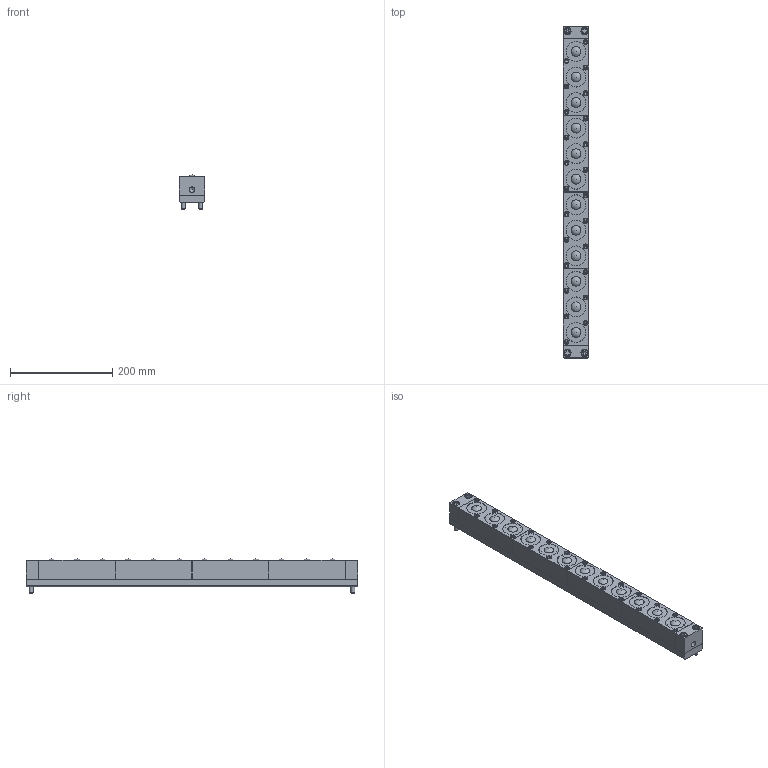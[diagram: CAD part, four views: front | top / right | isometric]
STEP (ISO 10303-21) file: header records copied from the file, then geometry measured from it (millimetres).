
FILE_DESCRIPTION(/* description */ (''),/* implementation_level */ '2;1');
FILE_NAME(/* name */ 'Z:\34-Tei\01-web 3Dデータ\41-ISR-50S型\ISR-50S-650-A.stp',/* time_stamp */ '2015-01-16T09:33:59+09:00',/* author */ ('yamaki'),/* organization */ (''),/* preprocessor_version */ 'ST-DEVELOPER v15.6',/* originating_system */ 'Autodesk Inventor 2015',/* authorisation */ '');
FILE_SCHEMA (('AUTOMOTIVE_DESIGN { 1 0 10303 214 3 1 1 }'));
Length unit declared in the file: millimetre
Products named in the file (5): 4200AT-01-650; 六角穴付きボルト-M8x55; 4200AT-00; 4200AT-03; ISR-50S
Bounding box: 49.5 x 650 x 67 mm (x, y, z)
Volume: 1579652.4 mm3; surface area: 368469.5 mm2
Topology: 19 solids, 19 shells, 614 faces, 1275 edges, 818 vertices
Faces by surface type: plane 397, cylinder 121, cone 54, torus 30, sphere 12
Full cylindrical faces by diameter (mm): 8 x2, 8.5 x24, 9 x2, 9.5 x24, 10.5 x1, 13 x4, 14.5 x4, 31.7 x12, 38.5 x12, 39 x12, 42 x24
Entity records: 4991 total; most frequent: CARTESIAN_POINT 884, DIRECTION 808, ORIENTED_EDGE 682, EDGE_CURVE 341, AXIS2_PLACEMENT_3D 295, EDGE_LOOP 280, VERTEX_POINT 245, LINE 218
